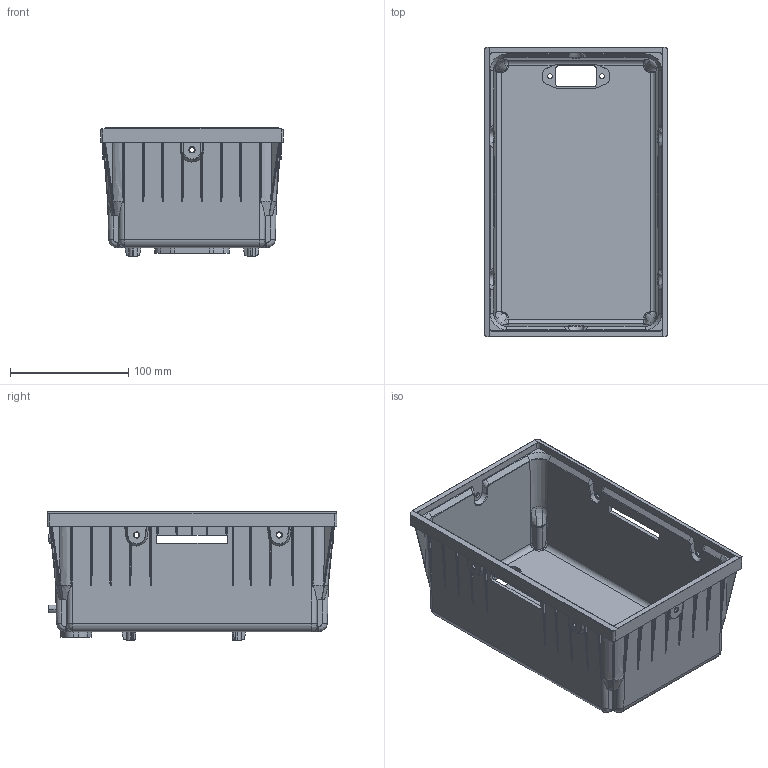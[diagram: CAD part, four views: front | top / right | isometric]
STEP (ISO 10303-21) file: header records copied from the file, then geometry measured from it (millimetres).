
FILE_DESCRIPTION((''),'2;1');
FILE_NAME('K-BOT250703002_6_30_1_2_1_7','2025-07-14T14:59:02',('Administrator'),(''),'CREO PARAMETRIC BY PTC INC, 2022073','CREO PARAMETRIC BY PTC INC, 2022073','');
FILE_SCHEMA(('CONFIG_CONTROL_DESIGN'));
Length unit declared in the file: millimetre
Products named in the file (1): K-BOT250703002_6_30_1_2_1_7
Bounding box: 154.7 x 244.79 x 108.45 mm (x, y, z)
Volume: 333911 mm3; surface area: 224709.3 mm2
Topology: 1 solids, 1 shells, 950 faces, 2573 edges, 1642 vertices
Faces by surface type: plane 463, cylinder 289, bspline 104, cone 62, torus 32
Entity records: 36386 total; most frequent: CARTESIAN_POINT 13667, ORIENTED_EDGE 5146, DIRECTION 4124, EDGE_CURVE 2573, VERTEX_POINT 1642, VECTOR 1486, LINE 1486, AXIS2_PLACEMENT_3D 1319
